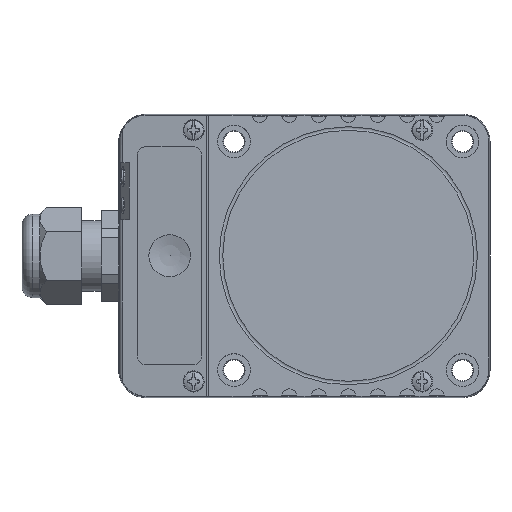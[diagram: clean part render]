
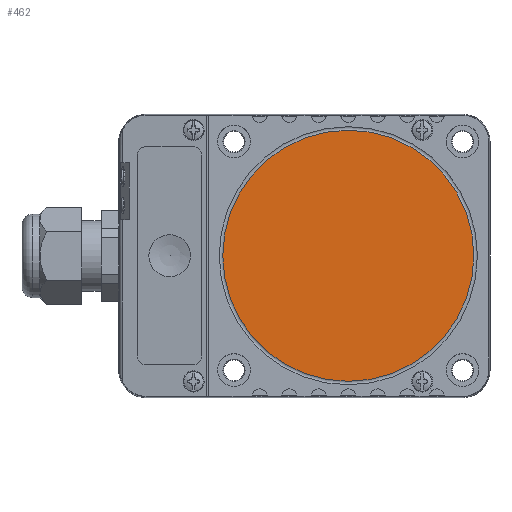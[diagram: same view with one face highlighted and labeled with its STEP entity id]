
A CAD part, top view. The second image highlights one B-rep face of the part: STEP entity #462.
In plain terms, the highlighted planar face has unit normal (0, 0, 1).
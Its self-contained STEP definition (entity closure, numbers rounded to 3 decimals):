
#462 = ADVANCED_FACE( '', ( #1511 ), #1512, .T. );
#1511 = FACE_OUTER_BOUND( '', #2716, .T. );
#1512 = PLANE( '', #2717 );
#2716 = EDGE_LOOP( '', ( #6107 ) );
#2717 = AXIS2_PLACEMENT_3D( '', #6108, #6109, #6110 );
#6107 = ORIENTED_EDGE( '', *, *, #8342, .T. );
#6108 = CARTESIAN_POINT( '', ( 7.5, 32.5, 24.8 ) );
#6109 = DIRECTION( '', ( 0., 0., 1. ) );
#6110 = DIRECTION( '', ( 1., 0., 0. ) );
#8342 = EDGE_CURVE( '', #10456, #10456, #10457, .T. );
#10456 = VERTEX_POINT( '', #13584 );
#10457 = CIRCLE( '', #13585, 35.7 );
#13584 = CARTESIAN_POINT( '', ( 100.7, 0., 24.8 ) );
#13585 = AXIS2_PLACEMENT_3D( '', #16001, #16002, #16003 );
#16001 = CARTESIAN_POINT( '', ( 65., 0., 24.8 ) );
#16002 = DIRECTION( '', ( 0., 0., 1. ) );
#16003 = DIRECTION( '', ( 1., 0., 0. ) );
